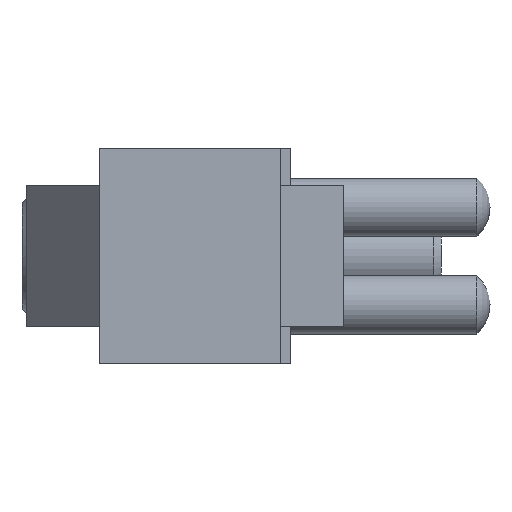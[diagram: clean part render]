
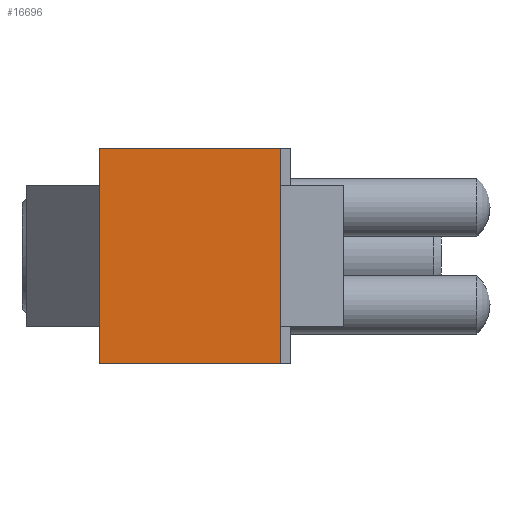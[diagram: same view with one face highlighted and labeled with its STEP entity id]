
A CAD part, left-side view. The second image highlights one B-rep face of the part: STEP entity #16696.
In plain terms, the highlighted planar face has unit normal (-1, 0, 0).
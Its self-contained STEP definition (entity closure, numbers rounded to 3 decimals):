
#2524=ORIENTED_EDGE('',*,*,#6730,.T.);
#2525=ORIENTED_EDGE('',*,*,#6731,.F.);
#2526=ORIENTED_EDGE('',*,*,#6732,.F.);
#2527=ORIENTED_EDGE('',*,*,#6733,.T.);
#6730=EDGE_CURVE('',#8546,#8547,#10714,.T.);
#6731=EDGE_CURVE('',#8548,#8547,#10715,.T.);
#6732=EDGE_CURVE('',#8549,#8548,#10716,.T.);
#6733=EDGE_CURVE('',#8549,#8546,#10717,.T.);
#8546=VERTEX_POINT('',#25674);
#8547=VERTEX_POINT('',#25675);
#8548=VERTEX_POINT('',#25677);
#8549=VERTEX_POINT('',#25679);
#10714=LINE('',#25673,#13010);
#10715=LINE('',#25676,#13011);
#10716=LINE('',#25678,#13012);
#10717=LINE('',#25680,#13013);
#13010=VECTOR('',#20915,1000.);
#13011=VECTOR('',#20916,1000.);
#13012=VECTOR('',#20917,1000.);
#13013=VECTOR('',#20918,1000.);
#14142=EDGE_LOOP('',(#2524,#2525,#2526,#2527));
#15016=FACE_BOUND('',#14142,.T.);
#15890=PLANE('',#17639);
#16696=ADVANCED_FACE('',(#15016),#15890,.F.);
#17639=AXIS2_PLACEMENT_3D('',#25672,#20913,#20914);
#20913=DIRECTION('',(1.,0.,0.));
#20914=DIRECTION('',(0.,0.,-1.));
#20915=DIRECTION('',(0.,-1.,0.));
#20916=DIRECTION('',(0.,0.,-1.));
#20917=DIRECTION('',(0.,-1.,0.));
#20918=DIRECTION('',(0.,0.,-1.));
#25672=CARTESIAN_POINT('',(0.,19.5,11.));
#25673=CARTESIAN_POINT('',(0.,19.5,-11.));
#25674=CARTESIAN_POINT('',(0.,19.5,-11.));
#25675=CARTESIAN_POINT('',(0.,1.,-11.));
#25676=CARTESIAN_POINT('',(0.,1.,11.));
#25677=CARTESIAN_POINT('',(0.,1.,11.));
#25678=CARTESIAN_POINT('',(0.,19.5,11.));
#25679=CARTESIAN_POINT('',(0.,19.5,11.));
#25680=CARTESIAN_POINT('',(0.,19.5,11.));
